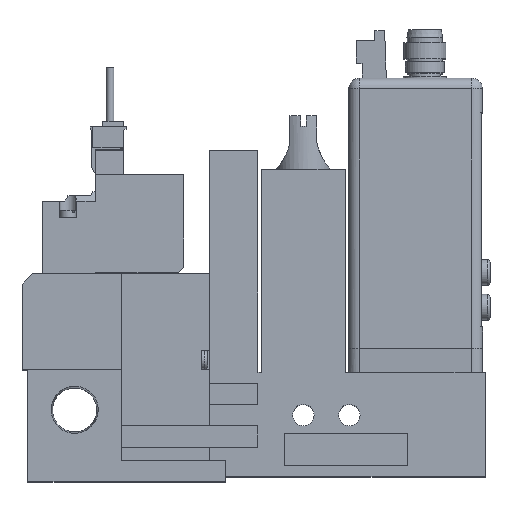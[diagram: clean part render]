
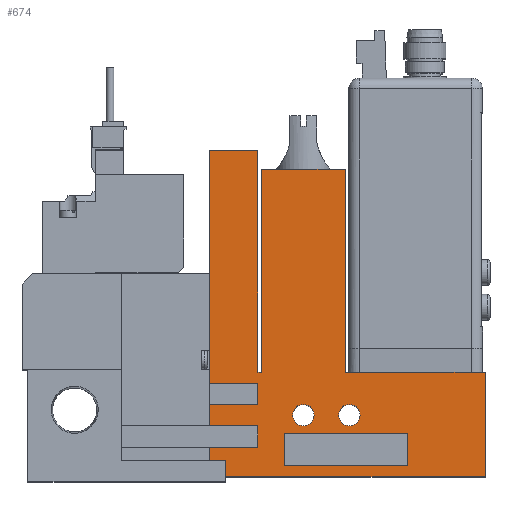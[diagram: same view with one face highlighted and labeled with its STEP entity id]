
A CAD part, top view. The second image highlights one B-rep face of the part: STEP entity #674.
In plain terms, the highlighted planar face has unit normal (0, 0, 1).
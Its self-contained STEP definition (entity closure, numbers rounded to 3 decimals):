
#674=ADVANCED_FACE('',(#2135,#2136,#2137,#2138),#2139,.T.);
#2135=FACE_OUTER_BOUND('',#4803,.T.);
#2136=FACE_BOUND('',#4804,.T.);
#2137=FACE_BOUND('',#4805,.T.);
#2138=FACE_BOUND('',#4806,.T.);
#2139=PLANE('',#4807);
#4803=EDGE_LOOP('',(#9108,#9109,#9110,#9111,#9112,#9113,#9114,#9115,#9116,#9117,#9118,#9119,#9120,#9121,#9122,#9123,#9124,#9125));
#4804=EDGE_LOOP('',(#9126,#9127,#9128,#9129));
#4805=EDGE_LOOP('',(#9130));
#4806=EDGE_LOOP('',(#9131));
#4807=AXIS2_PLACEMENT_3D('',#9132,#9133,#9134);
#9108=ORIENTED_EDGE('',*,*,#16975,.T.);
#9109=ORIENTED_EDGE('',*,*,#16855,.T.);
#9110=ORIENTED_EDGE('',*,*,#16976,.T.);
#9111=ORIENTED_EDGE('',*,*,#16977,.T.);
#9112=ORIENTED_EDGE('',*,*,#16933,.T.);
#9113=ORIENTED_EDGE('',*,*,#16935,.T.);
#9114=ORIENTED_EDGE('',*,*,#16978,.T.);
#9115=ORIENTED_EDGE('',*,*,#16979,.T.);
#9116=ORIENTED_EDGE('',*,*,#16972,.T.);
#9117=ORIENTED_EDGE('',*,*,#16907,.T.);
#9118=ORIENTED_EDGE('',*,*,#16863,.T.);
#9119=ORIENTED_EDGE('',*,*,#16974,.T.);
#9120=ORIENTED_EDGE('',*,*,#16980,.T.);
#9121=ORIENTED_EDGE('',*,*,#16922,.T.);
#9122=ORIENTED_EDGE('',*,*,#16966,.T.);
#9123=ORIENTED_EDGE('',*,*,#16868,.T.);
#9124=ORIENTED_EDGE('',*,*,#16968,.T.);
#9125=ORIENTED_EDGE('',*,*,#16981,.T.);
#9126=ORIENTED_EDGE('',*,*,#16965,.T.);
#9127=ORIENTED_EDGE('',*,*,#16982,.T.);
#9128=ORIENTED_EDGE('',*,*,#16983,.T.);
#9129=ORIENTED_EDGE('',*,*,#16889,.T.);
#9130=ORIENTED_EDGE('',*,*,#16831,.T.);
#9131=ORIENTED_EDGE('',*,*,#16829,.T.);
#9132=CARTESIAN_POINT('',(0.0,0.0,10.0));
#9133=DIRECTION('',(0.0,0.0,1.0));
#9134=DIRECTION('',(1.0,0.0,0.0));
#16829=EDGE_CURVE('',#20429,#20429,#20430,.T.);
#16831=EDGE_CURVE('',#20433,#20433,#20434,.T.);
#16855=EDGE_CURVE('',#20470,#20477,#20479,.T.);
#16863=EDGE_CURVE('',#20495,#20493,#20496,.T.);
#16868=EDGE_CURVE('',#20505,#20503,#20506,.T.);
#16889=EDGE_CURVE('',#20538,#20543,#20545,.T.);
#16907=EDGE_CURVE('',#20575,#20495,#20576,.T.);
#16922=EDGE_CURVE('',#20600,#20598,#20601,.T.);
#16933=EDGE_CURVE('',#20620,#20618,#20621,.T.);
#16935=EDGE_CURVE('',#20618,#20623,#20624,.T.);
#16965=EDGE_CURVE('',#20543,#20672,#20674,.T.);
#16966=EDGE_CURVE('',#20598,#20505,#20675,.T.);
#16968=EDGE_CURVE('',#20503,#20676,#20678,.T.);
#16972=EDGE_CURVE('',#20682,#20575,#20684,.T.);
#16974=EDGE_CURVE('',#20493,#20685,#20687,.T.);
#16975=EDGE_CURVE('',#20688,#20470,#20689,.T.);
#16976=EDGE_CURVE('',#20477,#20690,#20691,.T.);
#16977=EDGE_CURVE('',#20690,#20620,#20692,.T.);
#16978=EDGE_CURVE('',#20623,#20693,#20694,.T.);
#16979=EDGE_CURVE('',#20693,#20682,#20695,.T.);
#16980=EDGE_CURVE('',#20685,#20600,#20696,.T.);
#16981=EDGE_CURVE('',#20676,#20688,#20697,.T.);
#16982=EDGE_CURVE('',#20672,#20698,#20699,.T.);
#16983=EDGE_CURVE('',#20698,#20538,#20700,.T.);
#20429=VERTEX_POINT('',#25910);
#20430=CIRCLE('',#25911,2.0);
#20433=VERTEX_POINT('',#25914);
#20434=CIRCLE('',#25915,2.0);
#20470=VERTEX_POINT('',#25964);
#20477=VERTEX_POINT('',#25974);
#20479=LINE('',#25977,#25978);
#20493=VERTEX_POINT('',#25998);
#20495=VERTEX_POINT('',#26001);
#20496=LINE('',#26002,#26003);
#20503=VERTEX_POINT('',#26012);
#20505=VERTEX_POINT('',#26015);
#20506=LINE('',#26016,#26017);
#20538=VERTEX_POINT('',#26066);
#20543=VERTEX_POINT('',#26073);
#20545=LINE('',#26076,#26077);
#20575=VERTEX_POINT('',#26122);
#20576=LINE('',#26123,#26124);
#20598=VERTEX_POINT('',#26159);
#20600=VERTEX_POINT('',#26162);
#20601=LINE('',#26163,#26164);
#20618=VERTEX_POINT('',#26187);
#20620=VERTEX_POINT('',#26190);
#20621=LINE('',#26191,#26192);
#20623=VERTEX_POINT('',#26195);
#20624=LINE('',#26196,#26197);
#20672=VERTEX_POINT('',#26268);
#20674=LINE('',#26271,#26272);
#20675=LINE('',#26273,#26274);
#20676=VERTEX_POINT('',#26275);
#20678=LINE('',#26278,#26279);
#20682=VERTEX_POINT('',#26285);
#20684=LINE('',#26288,#26289);
#20685=VERTEX_POINT('',#26290);
#20687=LINE('',#26293,#26294);
#20688=VERTEX_POINT('',#26295);
#20689=LINE('',#26296,#26297);
#20690=VERTEX_POINT('',#26298);
#20691=LINE('',#26299,#26300);
#20692=LINE('',#26301,#26302);
#20693=VERTEX_POINT('',#26303);
#20694=LINE('',#26304,#26305);
#20695=LINE('',#26306,#26307);
#20696=LINE('',#26308,#26309);
#20697=LINE('',#26310,#26311);
#20698=VERTEX_POINT('',#26312);
#20699=LINE('',#26313,#26314);
#20700=LINE('',#26315,#26316);
#25910=CARTESIAN_POINT('',(63.2,11.5,10.0));
#25911=AXIS2_PLACEMENT_3D('',#32682,#32683,#32684);
#25914=CARTESIAN_POINT('',(54.6,11.5,10.0));
#25915=AXIS2_PLACEMENT_3D('',#32688,#32689,#32690);
#25964=CARTESIAN_POINT('',(35.1,17.5,10.0));
#25974=CARTESIAN_POINT('',(44.1,17.5,10.0));
#25977=CARTESIAN_POINT('',(0.0,17.5,10.0));
#25978=VECTOR('',#32726,1.0);
#25998=CARTESIAN_POINT('',(86.6,19.5,10.0));
#26001=CARTESIAN_POINT('',(86.6,0.0,10.0));
#26002=CARTESIAN_POINT('',(86.6,0.0,10.0));
#26003=VECTOR('',#32734,1.0);
#26012=CARTESIAN_POINT('',(44.1,19.5,10.0));
#26015=CARTESIAN_POINT('',(44.75,19.5,10.0));
#26016=CARTESIAN_POINT('',(44.75,19.5,10.0));
#26017=VECTOR('',#32741,1.0);
#26066=CARTESIAN_POINT('',(72.1,2.0,10.0));
#26073=CARTESIAN_POINT('',(49.1,2.0,10.0));
#26076=CARTESIAN_POINT('',(0.0,2.0,10.0));
#26077=VECTOR('',#32762,1.0);
#26122=CARTESIAN_POINT('',(35.1,0.0,10.0));
#26123=CARTESIAN_POINT('',(18.6,0.0,10.0));
#26124=VECTOR('',#32784,1.0);
#26159=CARTESIAN_POINT('',(44.75,57.5,10.0));
#26162=CARTESIAN_POINT('',(60.45,57.5,10.0));
#26163=CARTESIAN_POINT('',(60.45,57.5,10.0));
#26164=VECTOR('',#32799,1.0);
#26187=CARTESIAN_POINT('',(35.1,9.5,10.0));
#26190=CARTESIAN_POINT('',(35.1,13.5,10.0));
#26191=CARTESIAN_POINT('',(35.1,0.0,10.0));
#26192=VECTOR('',#32816,1.0);
#26195=CARTESIAN_POINT('',(44.1,9.5,10.0));
#26196=CARTESIAN_POINT('',(0.0,9.5,10.0));
#26197=VECTOR('',#32818,1.0);
#26268=CARTESIAN_POINT('',(49.1,8.0,10.0));
#26271=CARTESIAN_POINT('',(49.1,0.0,10.0));
#26272=VECTOR('',#32858,1.0);
#26273=CARTESIAN_POINT('',(44.75,57.5,10.0));
#26274=VECTOR('',#32859,1.0);
#26275=CARTESIAN_POINT('',(44.1,61.0,10.0));
#26278=CARTESIAN_POINT('',(44.1,19.5,10.0));
#26279=VECTOR('',#32861,1.0);
#26285=CARTESIAN_POINT('',(35.1,5.5,10.0));
#26288=CARTESIAN_POINT('',(35.1,0.0,10.0));
#26289=VECTOR('',#32865,1.0);
#26290=CARTESIAN_POINT('',(60.45,19.5,10.0));
#26293=CARTESIAN_POINT('',(86.6,19.5,10.0));
#26294=VECTOR('',#32867,1.0);
#26295=CARTESIAN_POINT('',(35.1,61.0,10.0));
#26296=CARTESIAN_POINT('',(35.1,61.0,10.0));
#26297=VECTOR('',#32868,1.0);
#26298=CARTESIAN_POINT('',(44.1,13.5,10.0));
#26299=CARTESIAN_POINT('',(44.1,0.0,10.0));
#26300=VECTOR('',#32869,1.0);
#26301=CARTESIAN_POINT('',(0.0,13.5,10.0));
#26302=VECTOR('',#32870,1.0);
#26303=CARTESIAN_POINT('',(44.1,5.5,10.0));
#26304=CARTESIAN_POINT('',(44.1,0.0,10.0));
#26305=VECTOR('',#32871,1.0);
#26306=CARTESIAN_POINT('',(0.0,5.5,10.0));
#26307=VECTOR('',#32872,1.0);
#26308=CARTESIAN_POINT('',(60.45,19.5,10.0));
#26309=VECTOR('',#32873,1.0);
#26310=CARTESIAN_POINT('',(44.1,61.0,10.0));
#26311=VECTOR('',#32874,1.0);
#26312=CARTESIAN_POINT('',(72.1,8.0,10.0));
#26313=CARTESIAN_POINT('',(0.0,8.0,10.0));
#26314=VECTOR('',#32875,1.0);
#26315=CARTESIAN_POINT('',(72.1,0.0,10.0));
#26316=VECTOR('',#32876,1.0);
#32682=CARTESIAN_POINT('',(61.2,11.5,10.0));
#32683=DIRECTION('',(0.0,0.0,-1.0));
#32684=DIRECTION('',(1.0,0.0,0.0));
#32688=CARTESIAN_POINT('',(52.6,11.5,10.0));
#32689=DIRECTION('',(0.0,0.0,-1.0));
#32690=DIRECTION('',(1.0,0.0,0.0));
#32726=DIRECTION('',(1.0,0.0,0.0));
#32734=DIRECTION('',(0.0,1.0,0.0));
#32741=DIRECTION('',(-1.0,0.0,0.0));
#32762=DIRECTION('',(-1.0,0.0,0.0));
#32784=DIRECTION('',(1.0,0.0,0.0));
#32799=DIRECTION('',(-1.0,0.0,0.0));
#32816=DIRECTION('',(0.0,-1.0,0.0));
#32818=DIRECTION('',(1.0,0.0,0.0));
#32858=DIRECTION('',(0.0,1.0,0.0));
#32859=DIRECTION('',(0.0,-1.0,0.0));
#32861=DIRECTION('',(0.0,1.0,0.0));
#32865=DIRECTION('',(0.0,-1.0,0.0));
#32867=DIRECTION('',(-1.0,0.0,0.0));
#32868=DIRECTION('',(0.0,-1.0,0.0));
#32869=DIRECTION('',(0.0,-1.0,0.0));
#32870=DIRECTION('',(-1.0,0.0,0.0));
#32871=DIRECTION('',(0.0,-1.0,0.0));
#32872=DIRECTION('',(-1.0,0.0,0.0));
#32873=DIRECTION('',(0.0,1.0,0.0));
#32874=DIRECTION('',(-1.0,0.0,0.0));
#32875=DIRECTION('',(1.0,0.0,0.0));
#32876=DIRECTION('',(0.0,-1.0,0.0));
